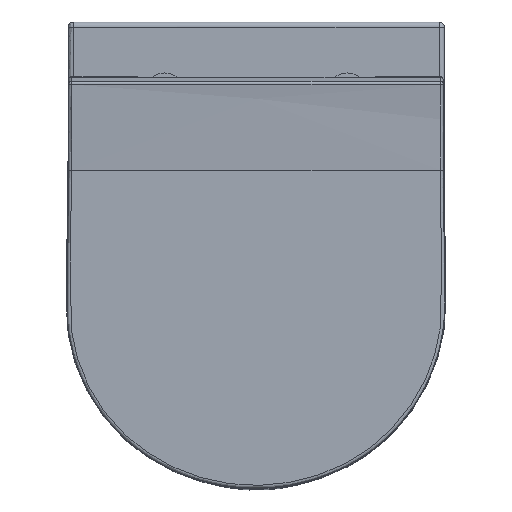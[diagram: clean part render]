
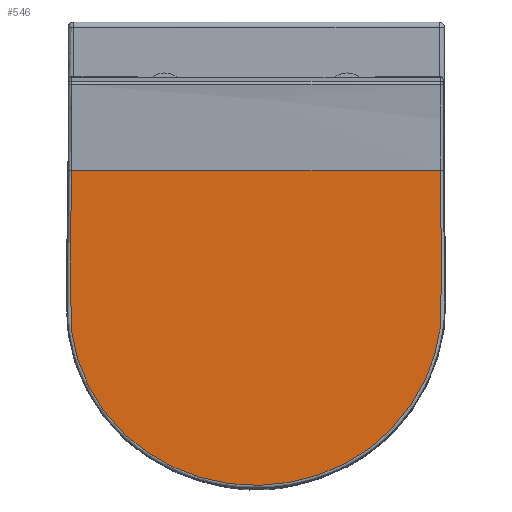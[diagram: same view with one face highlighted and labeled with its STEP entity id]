
A CAD part, top view. The second image highlights one B-rep face of the part: STEP entity #546.
In plain terms, the highlighted planar face has unit normal (0, 0, 1).
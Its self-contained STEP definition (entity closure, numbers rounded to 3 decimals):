
#546=ADVANCED_FACE('',(#1191),#10324,.T.);
#1191=FACE_OUTER_BOUND('',#1849,.T.);
#1849=EDGE_LOOP('',(#4263,#4264));
#4263=ORIENTED_EDGE('',*,*,#6166,.F.);
#4264=ORIENTED_EDGE('',*,*,#6189,.F.);
#6166=EDGE_CURVE('',#7984,#7983,#9002,.T.);
#6189=EDGE_CURVE('',#7983,#7984,#9013,.T.);
#7983=VERTEX_POINT('',#38271);
#7984=VERTEX_POINT('',#38272);
#9002=(
BOUNDED_CURVE()
B_SPLINE_CURVE(1,(#38543,#38544),.UNSPECIFIED.,.F.,.F.)
B_SPLINE_CURVE_WITH_KNOTS((2,2),(2.893,364.998),
 .UNSPECIFIED.)
CURVE()
GEOMETRIC_REPRESENTATION_ITEM()
RATIONAL_B_SPLINE_CURVE((1.,1.))
REPRESENTATION_ITEM('')
);
#9013=(
BOUNDED_CURVE()
B_SPLINE_CURVE(3,(#38621,#38622,#38623,#38624,#38625,#38626,#38627,#38628,
#38629,#38630,#38631,#38632,#38633,#38634,#38635,#38636,#38637,#38638,#38639,
#38640,#38641,#38642,#38643,#38644,#38645,#38646,#38647,#38648,#38649,#38650,
#38651,#38652,#38653,#38654,#38655,#38656,#38657,#38658,#38659,#38660,#38661,
#38662,#38663,#38664,#38665,#38666,#38667,#38668,#38669,#38670,#38671,#38672,
#38673,#38674,#38675,#38676,#38677,#38678,#38679,#38680,#38681,#38682,#38683,
#38684,#38685,#38686,#38687,#38688,#38689,#38690,#38691,#38692),
 .UNSPECIFIED.,.F.,.F.)
B_SPLINE_CURVE_WITH_KNOTS((4,3,1,1,1,1,1,1,1,1,1,1,1,1,1,1,1,1,1,1,1,1,
1,1,1,1,1,1,1,1,1,1,1,1,1,1,1,1,1,1,1,1,1,1,1,1,1,1,1,1,1,1,1,1,1,1,1,1,
1,1,1,1,1,1,3,4),(-0.038,0.,64.401,128.801,
129.443,130.085,131.156,132.228,137.533,
142.023,146.513,157.943,169.372,178.353,
187.334,205.297,222.447,239.596,248.582,
257.567,269.48,273.708,277.936,292.154,
306.372,321.238,324.654,329.212,355.637,
382.065,401.286,427.717,450.541,473.366,
494.987,508.198,519.607,526.212,532.143,
537.687,548.776,564.903,597.152,625.362,
647.524,669.682,678.746,687.811,690.581,
693.35,695.743,696.939,698.135,698.575,
699.015,699.235,699.455,699.676,699.896,
708.217,716.537,733.179,766.463,799.747,
833.03,833.068),.UNSPECIFIED.)
CURVE()
GEOMETRIC_REPRESENTATION_ITEM()
RATIONAL_B_SPLINE_CURVE((1.,1.,1.,1.,1.,1.,1.,1.,
1.,1.,1.,1.,1.,1.,1.,1.,1.,
1.,1.,1.,1.,1.,1.,1.,1.,1.,
1.,1.,1.,1.,1.,1.,1.,1.,
1.,1.,1.,1.,1.,1.,1.,1.,1.,
1.,1.,1.,1.,1.,1.,
1.,1.,1.,1.,1.,1.,1.,1.,1.,
1.,1.,1.,1.,1.,1.,1.,1.,1.,1.,1.,1.,1.,1.))
REPRESENTATION_ITEM('')
);
#10324=PLANE('',#11010);
#11010=AXIS2_PLACEMENT_3D('',#33726,#12034,$);
#12034=DIRECTION('',(0.,0.,1.));
#33726=CARTESIAN_POINT('',(186.429,-454.356,457.972));
#38271=CARTESIAN_POINT('',(181.06,-141.005,457.972));
#38272=CARTESIAN_POINT('',(-181.896,-141.005,457.972));
#38543=CARTESIAN_POINT('',(-181.896,-141.005,457.972));
#38544=CARTESIAN_POINT('',(181.06,-141.005,457.972));
#38621=CARTESIAN_POINT('',(181.06,-141.005,457.972));
#38622=CARTESIAN_POINT('',(181.06,-141.018,457.972));
#38623=CARTESIAN_POINT('',(181.06,-141.031,457.972));
#38624=CARTESIAN_POINT('',(181.06,-141.043,457.972));
#38625=CARTESIAN_POINT('',(181.341,-162.508,457.972));
#38626=CARTESIAN_POINT('',(181.903,-205.438,457.972));
#38627=CARTESIAN_POINT('',(182.467,-248.583,457.972));
#38628=CARTESIAN_POINT('',(182.754,-270.476,457.972));
#38629=CARTESIAN_POINT('',(182.761,-271.261,457.972));
#38630=CARTESIAN_POINT('',(182.766,-272.189,457.972));
#38631=CARTESIAN_POINT('',(182.762,-274.671,457.972));
#38632=CARTESIAN_POINT('',(182.691,-278.293,457.972));
#38633=CARTESIAN_POINT('',(182.467,-283.05,457.972));
#38634=CARTESIAN_POINT('',(181.975,-289.836,457.972));
#38635=CARTESIAN_POINT('',(180.909,-298.895,457.972));
#38636=CARTESIAN_POINT('',(178.993,-309.339,457.972));
#38637=CARTESIAN_POINT('',(176.672,-318.861,457.972));
#38638=CARTESIAN_POINT('',(173.253,-330.341,457.972));
#38639=CARTESIAN_POINT('',(167.996,-344.087,457.972));
#38640=CARTESIAN_POINT('',(160.188,-359.682,457.972));
#38641=CARTESIAN_POINT('',(152.509,-371.917,457.972));
#38642=CARTESIAN_POINT('',(145.57,-381.351,457.972));
#38643=CARTESIAN_POINT('',(139.27,-389.07,457.972));
#38644=CARTESIAN_POINT('',(133.599,-395.241,457.972));
#38645=CARTESIAN_POINT('',(128.781,-400.026,457.972));
#38646=CARTESIAN_POINT('',(123.29,-405.22,457.972));
#38647=CARTESIAN_POINT('',(114.991,-412.282,457.972));
#38648=CARTESIAN_POINT('',(103.265,-420.719,457.972));
#38649=CARTESIAN_POINT('',(93.969,-426.301,457.972));
#38650=CARTESIAN_POINT('',(87.246,-429.874,457.972));
#38651=CARTESIAN_POINT('',(77.008,-435.04,457.972));
#38652=CARTESIAN_POINT('',(59.241,-442.27,457.972));
#38653=CARTESIAN_POINT('',(35.897,-448.189,457.972));
#38654=CARTESIAN_POINT('',(12.041,-451.288,457.972));
#38655=CARTESIAN_POINT('',(-10.838,-451.516,457.972));
#38656=CARTESIAN_POINT('',(-34.738,-448.667,457.972));
#38657=CARTESIAN_POINT('',(-56.569,-443.375,457.972));
#38658=CARTESIAN_POINT('',(-74.625,-436.703,457.972));
#38659=CARTESIAN_POINT('',(-88.546,-430.065,457.972));
#38660=CARTESIAN_POINT('',(-97.638,-424.988,457.972));
#38661=CARTESIAN_POINT('',(-104.417,-420.773,457.972));
#38662=CARTESIAN_POINT('',(-109.429,-417.423,457.972));
#38663=CARTESIAN_POINT('',(-115.539,-413.036,457.972));
#38664=CARTESIAN_POINT('',(-124.097,-406.244,457.972));
#38665=CARTESIAN_POINT('',(-138.621,-392.723,457.972));
#38666=CARTESIAN_POINT('',(-154.762,-372.801,457.972));
#38667=CARTESIAN_POINT('',(-168.143,-348.624,457.972));
#38668=CARTESIAN_POINT('',(-176.662,-325.945,457.972));
#38669=CARTESIAN_POINT('',(-180.739,-308.585,457.972));
#38670=CARTESIAN_POINT('',(-182.613,-295.283,457.972));
#38671=CARTESIAN_POINT('',(-183.221,-288.341,457.972));
#38672=CARTESIAN_POINT('',(-183.478,-283.479,457.972));
#38673=CARTESIAN_POINT('',(-183.576,-280.837,457.972));
#38674=CARTESIAN_POINT('',(-183.622,-278.718,457.972));
#38675=CARTESIAN_POINT('',(-183.641,-277.123,457.972));
#38676=CARTESIAN_POINT('',(-183.645,-276.179,457.972));
#38677=CARTESIAN_POINT('',(-183.645,-275.487,457.972));
#38678=CARTESIAN_POINT('',(-183.644,-275.12,457.972));
#38679=CARTESIAN_POINT('',(-183.643,-274.827,457.972));
#38680=CARTESIAN_POINT('',(-183.641,-274.607,457.972));
#38681=CARTESIAN_POINT('',(-183.64,-274.387,457.972));
#38682=CARTESIAN_POINT('',(-183.605,-271.467,457.972));
#38683=CARTESIAN_POINT('',(-183.529,-265.846,457.972));
#38684=CARTESIAN_POINT('',(-183.386,-254.753,457.972));
#38685=CARTESIAN_POINT('',(-183.13,-235.339,457.972));
#38686=CARTESIAN_POINT('',(-182.768,-207.605,457.972));
#38687=CARTESIAN_POINT('',(-182.332,-174.324,457.972));
#38688=CARTESIAN_POINT('',(-182.042,-152.137,457.972));
#38689=CARTESIAN_POINT('',(-181.897,-141.043,457.972));
#38690=CARTESIAN_POINT('',(-181.897,-141.031,457.972));
#38691=CARTESIAN_POINT('',(-181.896,-141.018,457.972));
#38692=CARTESIAN_POINT('',(-181.896,-141.005,457.972));
